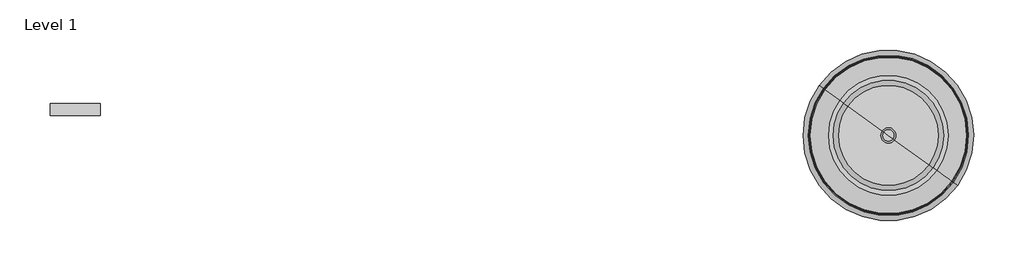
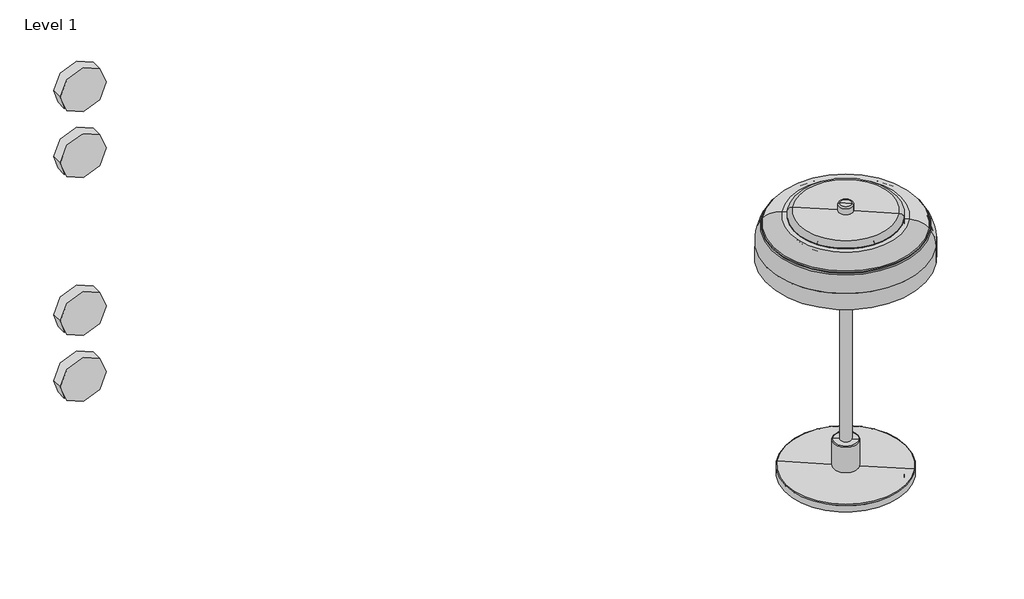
# One storey: 4 proxies, 1 light fixture.
"""IFC4 building model written with IfcOpenShell, lengths in millimetres."""

from ifc_helpers import new_model, si_unit, origin, place, context, project, spatial, transform, mapped, element, save
from components import materialmodel_materialmodel_d9ff14ed, light_fixture_d68c31f9

model = new_model("IFC4")

# Units and contexts
model_context = context("Model", 3, world=origin())
ifc_project = project(units=[si_unit("LENGTHUNIT", "METRE", prefix="MILLI")], contexts=[model_context])

# Site, building, storey
site = spatial("IfcSite", under=ifc_project)
building = spatial("IfcBuilding", under=site)
storey = spatial("IfcBuildingStorey", under=building, Name="Level 1", Elevation=0.0)

# Proxies
placement = place(None, origin())
materialmodel_materialmodel_shape = materialmodel_materialmodel_d9ff14ed(model_context)
element("IfcBuildingElementProxy", 1, Name="MaterialModel : MaterialModel", ObjectType="MaterialModel : MaterialModel", at=placement, inside=storey, context=model_context, shape_type="MappedRepresentation", body=[
    mapped(materialmodel_materialmodel_shape, transform((-14181.8938273, 5257.5863071, 552.2099026), x_axis=(1.0, 0.0, 0.0), y_axis=(0.0, 1.0, 0.0), z_axis=(0.0, 0.0, 1.0))),
])
element("IfcBuildingElementProxy", 2, Name="MaterialModel : MaterialModel", ObjectType="MaterialModel : MaterialModel", at=placement, inside=storey, context=model_context, shape_type="MappedRepresentation", body=[
    mapped(materialmodel_materialmodel_shape, transform((-14181.8938273, 5257.5863071, 477.2099026), x_axis=(1.0, 0.0, 0.0), y_axis=(0.0, 1.0, 0.0), z_axis=(0.0, 0.0, 1.0))),
])
element("IfcBuildingElementProxy", 3, Name="MaterialModel : MaterialModel", ObjectType="MaterialModel : MaterialModel", at=placement, inside=storey, context=model_context, shape_type="MappedRepresentation", body=[
    mapped(materialmodel_materialmodel_shape, transform((-14181.8938273, 5257.5863071, 807.2099026), x_axis=(1.0, 0.0, 0.0), y_axis=(0.0, 1.0, 0.0), z_axis=(0.0, 0.0, 1.0))),
])
element("IfcBuildingElementProxy", 4, Name="MaterialModel : MaterialModel", ObjectType="MaterialModel : MaterialModel", at=placement, inside=storey, context=model_context, shape_type="MappedRepresentation", body=[
    mapped(materialmodel_materialmodel_shape, transform((-14181.8938273, 5257.5863071, 732.2099026), x_axis=(1.0, 0.0, 0.0), y_axis=(0.0, 1.0, 0.0), z_axis=(0.0, 0.0, 1.0))),
])

# Light fixture
light_fixture_shape = light_fixture_d68c31f9(model_context)
element("IfcLightFixture", 5, ObjectType="Nuura - Blossi - Table Small : Nuura - Blossi - Table Small", at=placement, inside=storey, context=model_context, shape_type="MappedRepresentation", body=[
    mapped(light_fixture_shape, transform((-13372.5207912, 5226.0069548, 173.2082233), x_axis=(0.8098828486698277, -0.586591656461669, 0.0), y_axis=(0.586591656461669, 0.8098828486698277, 0.0), z_axis=(0.0, 0.0, 1.0))),
])

save(model, "model.ifc")
